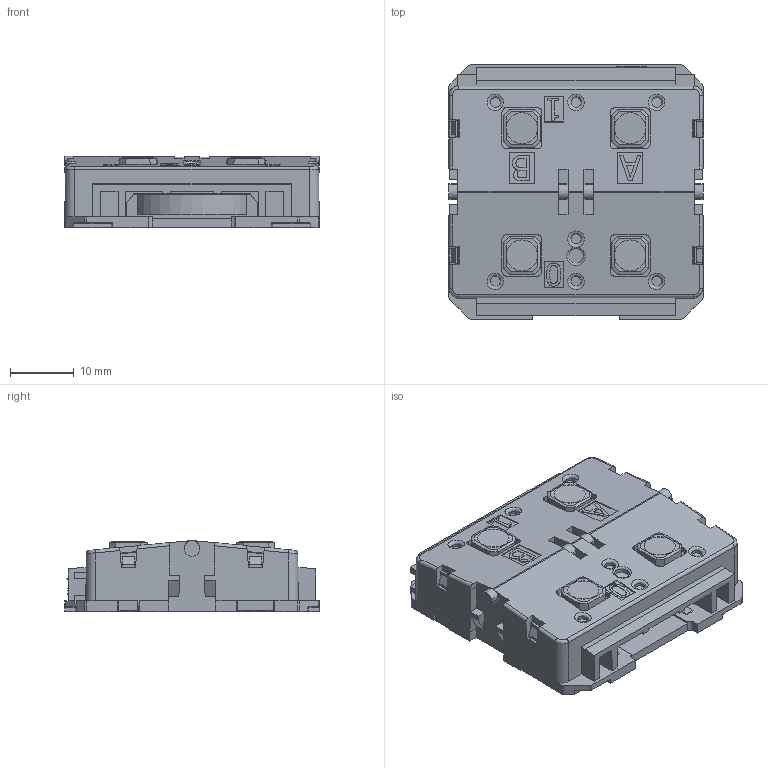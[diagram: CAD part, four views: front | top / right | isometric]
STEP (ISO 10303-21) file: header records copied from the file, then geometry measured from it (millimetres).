
FILE_DESCRIPTION(/* description */ (''),/* implementation_level */ '2;1');
FILE_NAME(/* name */ 'KNX_RF_ENO_Push_Button_440_secure.stp',/* time_stamp */ '2025-10-02T14:44:53+02:00',/* author */ (''),/* organization */ (''),/* preprocessor_version */ 'ST-DEVELOPER v17.2',/* originating_system */ 'Autodesk Inventor 2019',/* authorisation */ '');
FILE_SCHEMA (('AUTOMOTIVE_DESIGN { 1 0 10303 214 3 1 1 }'));
Products named in the file (1): KNX_RF_ENO_Push_Button_440_secure
Bounding box: 40 x 40 x 11.18 mm (x, y, z)
Volume: 14110.9 mm3; surface area: 5884.1 mm2
Topology: 1 solids, 1 shells, 1166 faces, 3214 edges, 2097 vertices
Faces by surface type: plane 798, bspline 237, cylinder 117, sphere 8, cone 4, torus 2
Full cylindrical faces by diameter (mm): 1.3 x2, 1.6 x7, 2.3 x1, 4.9 x4
Entity records: 49434 total; most frequent: CARTESIAN_POINT 19880, ORIENTED_EDGE 6426, DIRECTION 5013, EDGE_CURVE 3213, LINE 2391, VECTOR 2391, VERTEX_POINT 2097, AXIS2_PLACEMENT_3D 1311
